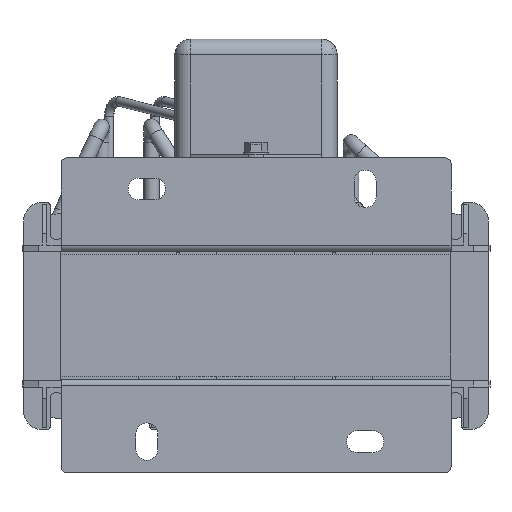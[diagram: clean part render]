
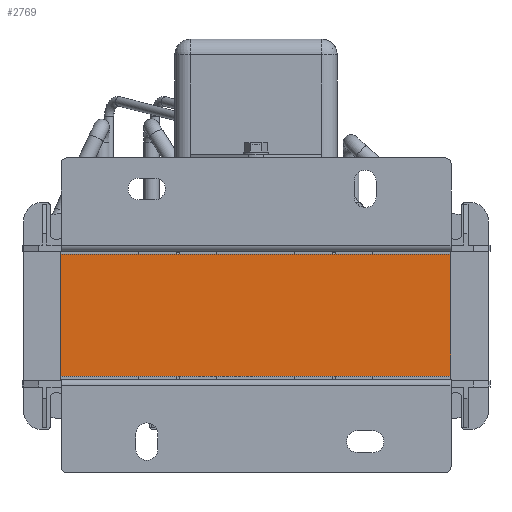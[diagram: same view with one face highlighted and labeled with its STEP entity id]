
A CAD part, front view. The second image highlights one B-rep face of the part: STEP entity #2769.
In plain terms, the highlighted planar face has unit normal (0, -1, 0).
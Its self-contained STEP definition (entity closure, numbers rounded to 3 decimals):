
#2769=ADVANCED_FACE('',(#13933),#13935,.F.);
#13933=FACE_BOUND('',#13934,.T.);
#13934=EDGE_LOOP('',(#23034,#23035,#23036,#23037));
#13935=PLANE('',#13936);
#13936=AXIS2_PLACEMENT_3D('',#13937,#13938,#13939);
#13937=CARTESIAN_POINT('',(-62.5,-64.5,39.));
#13938=DIRECTION('',(0.,1.,0.));
#13939=DIRECTION('',(0.,0.,1.));
#23034=ORIENTED_EDGE('',*,*,#28981,.T.);
#23035=ORIENTED_EDGE('',*,*,#28993,.F.);
#23036=ORIENTED_EDGE('',*,*,#28971,.F.);
#23037=ORIENTED_EDGE('',*,*,#28995,.T.);
#28971=EDGE_CURVE('',#31976,#31971,#31978,.T.);
#28981=EDGE_CURVE('',#31998,#31995,#31999,.T.);
#28993=EDGE_CURVE('',#31971,#31995,#32020,.T.);
#28995=EDGE_CURVE('',#31976,#31998,#32022,.T.);
#31971=VERTEX_POINT('',#37055);
#31976=VERTEX_POINT('',#37064);
#31978=LINE('',#37068,#37069);
#31995=VERTEX_POINT('',#37103);
#31998=VERTEX_POINT('',#37108);
#31999=LINE('',#37109,#37110);
#32020=LINE('',#37154,#37155);
#32022=LINE('',#37160,#37161);
#37055=CARTESIAN_POINT('',(62.5,-64.5,39.));
#37064=CARTESIAN_POINT('',(-62.5,-64.5,39.));
#37068=CARTESIAN_POINT('',(-62.5,-64.5,39.));
#37069=VECTOR('',#37070,1.);
#37070=DIRECTION('',(1.,0.,0.));
#37103=CARTESIAN_POINT('',(62.5,-64.5,0.));
#37108=CARTESIAN_POINT('',(-62.5,-64.5,0.));
#37109=CARTESIAN_POINT('',(-62.5,-64.5,0.));
#37110=VECTOR('',#37111,1.);
#37111=DIRECTION('',(1.,0.,0.));
#37154=CARTESIAN_POINT('',(62.5,-64.5,39.));
#37155=VECTOR('',#37156,1.);
#37156=DIRECTION('',(0.,0.,-1.));
#37160=CARTESIAN_POINT('',(-62.5,-64.5,39.));
#37161=VECTOR('',#37162,1.);
#37162=DIRECTION('',(0.,0.,-1.));
